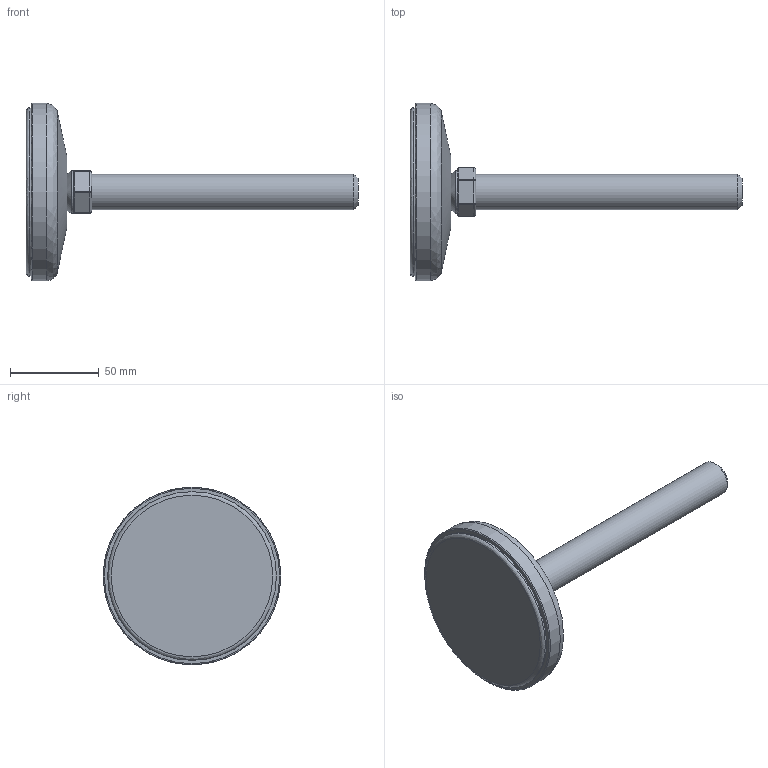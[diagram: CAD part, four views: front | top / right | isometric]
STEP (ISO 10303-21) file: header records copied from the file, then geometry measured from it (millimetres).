
FILE_DESCRIPTION(('STEP AP203'),'2;1');
FILE_NAME('11375.stp','2014-06-03T14:39:56',(''),(''),'2008.1.107','THINKDESIGN','');
FILE_SCHEMA(('CONFIG_CONTROL_DESIGN'));
Length unit declared in the file: millimetre
Bounding box: 187 x 100 x 100 mm (x, y, z)
Volume: 178905.5 mm3; surface area: 48615.8 mm2
Topology: 4 solids, 4 shells, 62 faces, 146 edges, 83 vertices
Faces by surface type: cylinder 25, bspline 20, plane 17
Full cylindrical faces by diameter (mm): 11 x1, 20 x1, 24 x2, 95 x2, 100 x1
Entity records: 3204 total; most frequent: CARTESIAN_POINT 1738, DIRECTION 271, ORIENTED_EDGE 246, EDGE_CURVE 123, AXIS2_PLACEMENT_3D 111, VERTEX_POINT 74, CIRCLE 69, EDGE_LOOP 63
